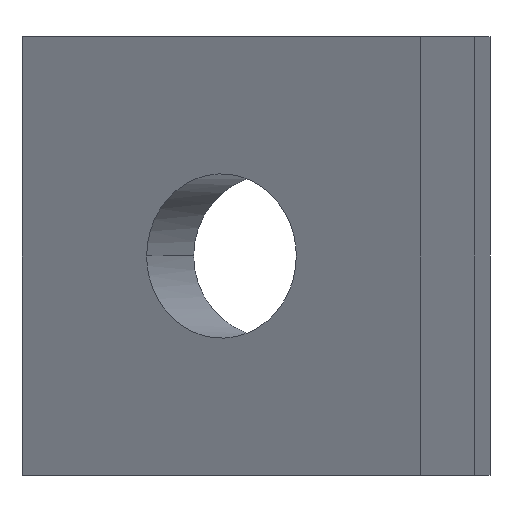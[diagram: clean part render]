
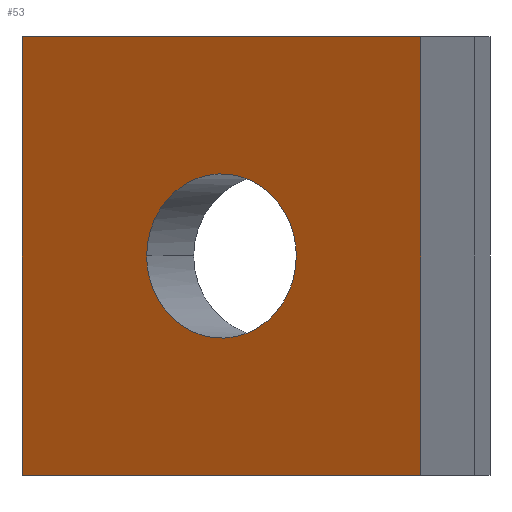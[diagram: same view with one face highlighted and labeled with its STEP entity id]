
A CAD part, front view. The second image highlights one B-rep face of the part: STEP entity #53.
In plain terms, the highlighted planar face has unit normal (-0.537, -0.843, 0).
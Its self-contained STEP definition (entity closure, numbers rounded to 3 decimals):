
#53=ADVANCED_FACE('',(#67,#68),#69,.T.);
#67=FACE_BOUND('',#90,.T.);
#68=FACE_OUTER_BOUND('',#91,.T.);
#69=PLANE('',#92);
#90=EDGE_LOOP('',(#123,#124));
#91=EDGE_LOOP('',(#125,#126,#127,#128));
#92=AXIS2_PLACEMENT_3D('',#129,#130,#131);
#123=ORIENTED_EDGE('',*,*,#189,.T.);
#124=ORIENTED_EDGE('',*,*,#193,.T.);
#125=ORIENTED_EDGE('',*,*,#194,.T.);
#126=ORIENTED_EDGE('',*,*,#195,.F.);
#127=ORIENTED_EDGE('',*,*,#196,.T.);
#128=ORIENTED_EDGE('',*,*,#197,.T.);
#129=CARTESIAN_POINT('',(198.582,7.29,43.5));
#130=DIRECTION('',(-0.537,-0.843,0.));
#131=DIRECTION('',(-0.843,0.537,0.));
#189=EDGE_CURVE('',#215,#212,#216,.T.);
#193=EDGE_CURVE('',#212,#215,#221,.T.);
#194=EDGE_CURVE('',#222,#223,#224,.T.);
#195=EDGE_CURVE('',#225,#223,#226,.T.);
#196=EDGE_CURVE('',#225,#227,#228,.T.);
#197=EDGE_CURVE('',#227,#222,#229,.T.);
#212=VERTEX_POINT('',#252);
#215=VERTEX_POINT('',#256);
#216=ELLIPSE('',#257,1.619,1.5);
#221=ELLIPSE('',#263,1.619,1.5);
#222=VERTEX_POINT('',#264);
#223=VERTEX_POINT('',#265);
#224=LINE('',#266,#267);
#225=VERTEX_POINT('',#268);
#226=LINE('',#269,#270);
#227=VERTEX_POINT('',#271);
#228=LINE('',#272,#273);
#229=LINE('',#274,#275);
#252=CARTESIAN_POINT('',(199.947,6.42,39.5));
#256=CARTESIAN_POINT('',(197.216,8.16,39.5));
#257=AXIS2_PLACEMENT_3D('',#313,#314,#315);
#263=AXIS2_PLACEMENT_3D('',#323,#324,#325);
#264=CARTESIAN_POINT('',(194.94,9.61,35.5));
#265=CARTESIAN_POINT('',(202.223,4.97,35.5));
#266=CARTESIAN_POINT('',(202.223,4.97,35.5));
#267=VECTOR('',#326,1.0);
#268=CARTESIAN_POINT('',(202.223,4.97,43.5));
#269=CARTESIAN_POINT('',(202.223,4.97,43.5));
#270=VECTOR('',#327,1.0);
#271=CARTESIAN_POINT('',(194.94,9.61,43.5));
#272=CARTESIAN_POINT('',(202.223,4.97,43.5));
#273=VECTOR('',#328,1.0);
#274=CARTESIAN_POINT('',(194.94,9.61,43.5));
#275=VECTOR('',#329,1.0);
#313=CARTESIAN_POINT('',(198.582,7.29,39.5));
#314=DIRECTION('',(0.537,0.843,0.));
#315=DIRECTION('',(0.843,-0.537,0.));
#323=CARTESIAN_POINT('',(198.582,7.29,39.5));
#324=DIRECTION('',(0.537,0.843,0.));
#325=DIRECTION('',(0.843,-0.537,0.));
#326=DIRECTION('',(0.843,-0.537,0.));
#327=DIRECTION('',(0.,0.,-1.0));
#328=DIRECTION('',(-0.843,0.537,0.));
#329=DIRECTION('',(0.,0.,-1.0));
